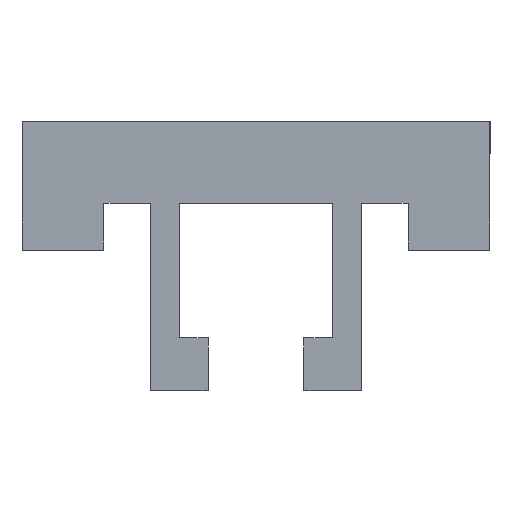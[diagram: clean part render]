
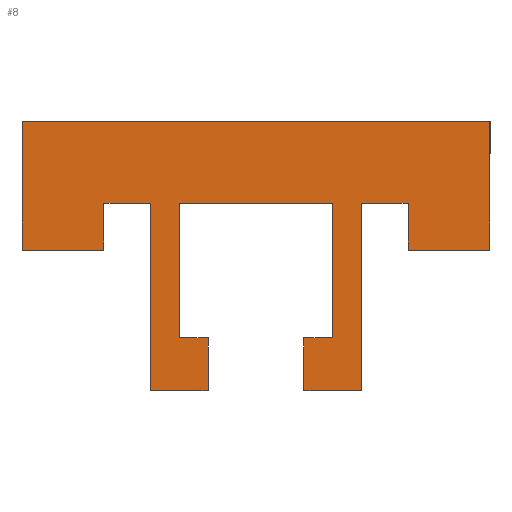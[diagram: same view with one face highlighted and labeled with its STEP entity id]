
A CAD part, left-side view. The second image highlights one B-rep face of the part: STEP entity #8.
In plain terms, the highlighted planar face has unit normal (-1, 0, 0).
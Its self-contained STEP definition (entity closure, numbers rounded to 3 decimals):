
#1 = CARTESIAN_POINT ( 'NONE',  ( 0., 9., -23. ) ) ;
#2 = EDGE_CURVE ( 'NONE', #394, #238, #31, .T. ) ;
#4 = CARTESIAN_POINT ( 'NONE',  ( 0., -9., -7. ) ) ;
#5 = CARTESIAN_POINT ( 'NONE',  ( 0., -20., 0. ) ) ;
#6 = VERTEX_POINT ( 'NONE', #251 ) ;
#8 = ADVANCED_FACE ( 'NONE', ( #713 ), #254, .F. ) ;
#17 = LINE ( 'NONE', #230, #569 ) ;
#20 = EDGE_CURVE ( 'NONE', #301, #394, #468, .T. ) ;
#25 = ORIENTED_EDGE ( 'NONE', *, *, #209, .F. ) ;
#31 = LINE ( 'NONE', #145, #416 ) ;
#32 = EDGE_CURVE ( 'NONE', #204, #301, #201, .T. ) ;
#41 = DIRECTION ( 'NONE',  ( 0., -1., 0. ) ) ;
#42 = VECTOR ( 'NONE', #240, 1000. ) ;
#43 = LINE ( 'NONE', #268, #372 ) ;
#44 = EDGE_CURVE ( 'NONE', #186, #6, #90, .T. ) ;
#62 = ORIENTED_EDGE ( 'NONE', *, *, #168, .F. ) ;
#69 = DIRECTION ( 'NONE',  ( 0., -1., 0. ) ) ;
#71 = ORIENTED_EDGE ( 'NONE', *, *, #155, .F. ) ;
#73 = CARTESIAN_POINT ( 'NONE',  ( 0., -20., -11. ) ) ;
#74 = ORIENTED_EDGE ( 'NONE', *, *, #414, .F. ) ;
#75 = VERTEX_POINT ( 'NONE', #720 ) ;
#79 = DIRECTION ( 'NONE',  ( 0., 0., 1. ) ) ;
#82 = VECTOR ( 'NONE', #429, 1000. ) ;
#86 = VERTEX_POINT ( 'NONE', #329 ) ;
#88 = VERTEX_POINT ( 'NONE', #545 ) ;
#90 = LINE ( 'NONE', #315, #316 ) ;
#97 = CARTESIAN_POINT ( 'NONE',  ( 0., 13., -11. ) ) ;
#102 = EDGE_CURVE ( 'NONE', #75, #502, #269, .T. ) ;
#111 = CARTESIAN_POINT ( 'NONE',  ( 0., -4.1, -18.5 ) ) ;
#128 = ORIENTED_EDGE ( 'NONE', *, *, #469, .F. ) ;
#132 = ORIENTED_EDGE ( 'NONE', *, *, #656, .F. ) ;
#140 = VERTEX_POINT ( 'NONE', #604 ) ;
#141 = VECTOR ( 'NONE', #598, 1000. ) ;
#145 = CARTESIAN_POINT ( 'NONE',  ( 0., -13., -11. ) ) ;
#146 = EDGE_CURVE ( 'NONE', #581, #75, #325, .T. ) ;
#153 = LINE ( 'NONE', #212, #82 ) ;
#155 = EDGE_CURVE ( 'NONE', #140, #260, #322, .T. ) ;
#165 = VECTOR ( 'NONE', #327, 1000. ) ;
#168 = EDGE_CURVE ( 'NONE', #641, #186, #153, .T. ) ;
#177 = VECTOR ( 'NONE', #513, 1000. ) ;
#178 = LINE ( 'NONE', #552, #620 ) ;
#186 = VERTEX_POINT ( 'NONE', #111 ) ;
#189 = CARTESIAN_POINT ( 'NONE',  ( 0., -13., -7. ) ) ;
#191 = VERTEX_POINT ( 'NONE', #397 ) ;
#199 = CARTESIAN_POINT ( 'NONE',  ( 0., -20., -11. ) ) ;
#201 = LINE ( 'NONE', #199, #292 ) ;
#204 = VERTEX_POINT ( 'NONE', #5 ) ;
#209 = EDGE_CURVE ( 'NONE', #502, #204, #17, .T. ) ;
#212 = CARTESIAN_POINT ( 'NONE',  ( 0., -4.1, -18.5 ) ) ;
#213 = VECTOR ( 'NONE', #503, 1000. ) ;
#216 = CARTESIAN_POINT ( 'NONE',  ( 0., 20., -11. ) ) ;
#220 = CARTESIAN_POINT ( 'NONE',  ( 0., 20., 0. ) ) ;
#222 = DIRECTION ( 'NONE',  ( 0., 0., 1. ) ) ;
#223 = CARTESIAN_POINT ( 'NONE',  ( 0., -13., -7. ) ) ;
#225 = LINE ( 'NONE', #344, #247 ) ;
#230 = CARTESIAN_POINT ( 'NONE',  ( 0., -20., 0. ) ) ;
#238 = VERTEX_POINT ( 'NONE', #189 ) ;
#240 = DIRECTION ( 'NONE',  ( 0., 1., 0. ) ) ;
#247 = VECTOR ( 'NONE', #558, 1000. ) ;
#251 = CARTESIAN_POINT ( 'NONE',  ( 0., -6.5, -18.5 ) ) ;
#254 = PLANE ( 'NONE',  #508 ) ;
#257 = DIRECTION ( 'NONE',  ( 0., 0., -1. ) ) ;
#260 = VERTEX_POINT ( 'NONE', #681 ) ;
#263 = EDGE_CURVE ( 'NONE', #460, #88, #559, .T. ) ;
#265 = CARTESIAN_POINT ( 'NONE',  ( 0., 4.1, -23. ) ) ;
#268 = CARTESIAN_POINT ( 'NONE',  ( 0., -4.1, -23. ) ) ;
#269 = LINE ( 'NONE', #220, #484 ) ;
#281 = EDGE_CURVE ( 'NONE', #238, #538, #449, .T. ) ;
#283 = ORIENTED_EDGE ( 'NONE', *, *, #263, .F. ) ;
#287 = ORIENTED_EDGE ( 'NONE', *, *, #522, .F. ) ;
#292 = VECTOR ( 'NONE', #590, 1000. ) ;
#301 = VERTEX_POINT ( 'NONE', #73 ) ;
#307 = VECTOR ( 'NONE', #541, 1000. ) ;
#314 = CARTESIAN_POINT ( 'NONE',  ( 0., 13., -7. ) ) ;
#315 = CARTESIAN_POINT ( 'NONE',  ( 0., -6.5, -18.5 ) ) ;
#316 = VECTOR ( 'NONE', #41, 1000. ) ;
#322 = LINE ( 'NONE', #609, #141 ) ;
#325 = LINE ( 'NONE', #216, #165 ) ;
#327 = DIRECTION ( 'NONE',  ( 0., 1., 0. ) ) ;
#329 = CARTESIAN_POINT ( 'NONE',  ( 0., 6.5, -18.5 ) ) ;
#336 = VERTEX_POINT ( 'NONE', #471 ) ;
#344 = CARTESIAN_POINT ( 'NONE',  ( 0., 13., -7. ) ) ;
#365 = DIRECTION ( 'NONE',  ( 0., 0., 1. ) ) ;
#367 = DIRECTION ( 'NONE',  ( 0., 1., 0. ) ) ;
#368 = LINE ( 'NONE', #521, #680 ) ;
#372 = VECTOR ( 'NONE', #657, 1000. ) ;
#375 = LINE ( 'NONE', #97, #307 ) ;
#377 = CARTESIAN_POINT ( 'NONE',  ( 0., 20., 0. ) ) ;
#381 = CARTESIAN_POINT ( 'NONE',  ( 0., -9., -7. ) ) ;
#383 = CARTESIAN_POINT ( 'NONE',  ( 0., 6.5, -18.5 ) ) ;
#394 = VERTEX_POINT ( 'NONE', #702 ) ;
#395 = VECTOR ( 'NONE', #486, 1000. ) ;
#397 = CARTESIAN_POINT ( 'NONE',  ( 0., -9., -23. ) ) ;
#398 = ORIENTED_EDGE ( 'NONE', *, *, #44, .F. ) ;
#405 = ORIENTED_EDGE ( 'NONE', *, *, #20, .F. ) ;
#409 = ORIENTED_EDGE ( 'NONE', *, *, #691, .F. ) ;
#412 = LINE ( 'NONE', #585, #593 ) ;
#414 = EDGE_CURVE ( 'NONE', #88, #336, #412, .T. ) ;
#415 = DIRECTION ( 'NONE',  ( 0., -1., 0. ) ) ;
#416 = VECTOR ( 'NONE', #365, 1000. ) ;
#429 = DIRECTION ( 'NONE',  ( 0., 0., 1. ) ) ;
#433 = EDGE_CURVE ( 'NONE', #86, #615, #368, .T. ) ;
#440 = CARTESIAN_POINT ( 'NONE',  ( 0., 4.1, -18.5 ) ) ;
#446 = VERTEX_POINT ( 'NONE', #314 ) ;
#449 = LINE ( 'NONE', #223, #635 ) ;
#451 = ORIENTED_EDGE ( 'NONE', *, *, #433, .F. ) ;
#457 = CARTESIAN_POINT ( 'NONE',  ( 0., -4.1, -23. ) ) ;
#459 = DIRECTION ( 'NONE',  ( 0., 1., 0. ) ) ;
#460 = VERTEX_POINT ( 'NONE', #265 ) ;
#468 = LINE ( 'NONE', #700, #605 ) ;
#469 = EDGE_CURVE ( 'NONE', #446, #581, #375, .T. ) ;
#471 = CARTESIAN_POINT ( 'NONE',  ( 0., 9., -7. ) ) ;
#479 = CARTESIAN_POINT ( 'NONE',  ( 0., 13., -11. ) ) ;
#484 = VECTOR ( 'NONE', #727, 1000. ) ;
#486 = DIRECTION ( 'NONE',  ( 0., 0., -1. ) ) ;
#493 = CARTESIAN_POINT ( 'NONE',  ( 0., 4.1, -23. ) ) ;
#496 = EDGE_CURVE ( 'NONE', #260, #86, #663, .T. ) ;
#498 = ORIENTED_EDGE ( 'NONE', *, *, #102, .F. ) ;
#502 = VERTEX_POINT ( 'NONE', #377 ) ;
#503 = DIRECTION ( 'NONE',  ( 0., 0., -1. ) ) ;
#505 = ORIENTED_EDGE ( 'NONE', *, *, #496, .F. ) ;
#508 = AXIS2_PLACEMENT_3D ( 'NONE', #650, #524, #257 ) ;
#513 = DIRECTION ( 'NONE',  ( 0., 0., -1. ) ) ;
#515 = ORIENTED_EDGE ( 'NONE', *, *, #638, .F. ) ;
#521 = CARTESIAN_POINT ( 'NONE',  ( 0., 4.1, -18.5 ) ) ;
#522 = EDGE_CURVE ( 'NONE', #191, #641, #43, .T. ) ;
#524 = DIRECTION ( 'NONE',  ( 1., 0., 0. ) ) ;
#530 = ORIENTED_EDGE ( 'NONE', *, *, #281, .F. ) ;
#538 = VERTEX_POINT ( 'NONE', #381 ) ;
#541 = DIRECTION ( 'NONE',  ( 0., 0., -1. ) ) ;
#545 = CARTESIAN_POINT ( 'NONE',  ( 0., 9., -23. ) ) ;
#552 = CARTESIAN_POINT ( 'NONE',  ( 0., -6.5, -7. ) ) ;
#558 = DIRECTION ( 'NONE',  ( 0., 1., 0. ) ) ;
#559 = LINE ( 'NONE', #1, #42 ) ;
#569 = VECTOR ( 'NONE', #69, 1000. ) ;
#581 = VERTEX_POINT ( 'NONE', #479 ) ;
#585 = CARTESIAN_POINT ( 'NONE',  ( 0., 9., -7. ) ) ;
#590 = DIRECTION ( 'NONE',  ( 0., 0., -1. ) ) ;
#593 = VECTOR ( 'NONE', #79, 1000. ) ;
#598 = DIRECTION ( 'NONE',  ( 0., 1., 0. ) ) ;
#604 = CARTESIAN_POINT ( 'NONE',  ( 0., -6.5, -7. ) ) ;
#605 = VECTOR ( 'NONE', #367, 1000. ) ;
#609 = CARTESIAN_POINT ( 'NONE',  ( 0., 6.5, -7. ) ) ;
#615 = VERTEX_POINT ( 'NONE', #440 ) ;
#620 = VECTOR ( 'NONE', #222, 1000. ) ;
#624 = LINE ( 'NONE', #4, #177 ) ;
#628 = LINE ( 'NONE', #493, #213 ) ;
#635 = VECTOR ( 'NONE', #459, 1000. ) ;
#638 = EDGE_CURVE ( 'NONE', #336, #446, #225, .T. ) ;
#641 = VERTEX_POINT ( 'NONE', #457 ) ;
#645 = ORIENTED_EDGE ( 'NONE', *, *, #666, .F. ) ;
#650 = CARTESIAN_POINT ( 'NONE',  ( 0., 0., 0. ) ) ;
#654 = ORIENTED_EDGE ( 'NONE', *, *, #32, .F. ) ;
#656 = EDGE_CURVE ( 'NONE', #615, #460, #628, .T. ) ;
#657 = DIRECTION ( 'NONE',  ( 0., 1., 0. ) ) ;
#663 = LINE ( 'NONE', #383, #395 ) ;
#666 = EDGE_CURVE ( 'NONE', #6, #140, #178, .T. ) ;
#680 = VECTOR ( 'NONE', #415, 1000. ) ;
#681 = CARTESIAN_POINT ( 'NONE',  ( 0., 6.5, -7. ) ) ;
#683 = EDGE_LOOP ( 'NONE', ( #515, #74, #283, #132, #451, #505, #71, #645, #398, #62, #287, #409, #530, #724, #405, #654, #25, #498, #692, #128 ) ) ;
#691 = EDGE_CURVE ( 'NONE', #538, #191, #624, .T. ) ;
#692 = ORIENTED_EDGE ( 'NONE', *, *, #146, .F. ) ;
#700 = CARTESIAN_POINT ( 'NONE',  ( 0., -20., -11. ) ) ;
#702 = CARTESIAN_POINT ( 'NONE',  ( 0., -13., -11. ) ) ;
#713 = FACE_OUTER_BOUND ( 'NONE', #683, .T. ) ;
#720 = CARTESIAN_POINT ( 'NONE',  ( 0., 20., -11. ) ) ;
#724 = ORIENTED_EDGE ( 'NONE', *, *, #2, .F. ) ;
#727 = DIRECTION ( 'NONE',  ( 0., 0., 1. ) ) ;
